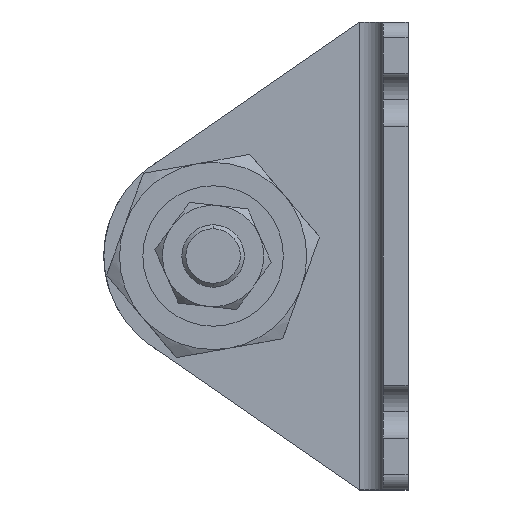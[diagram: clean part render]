
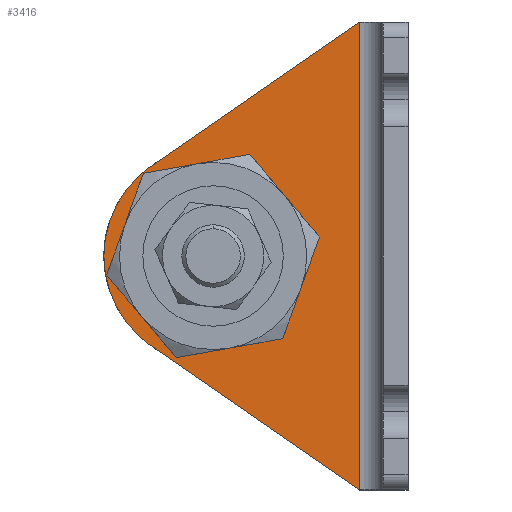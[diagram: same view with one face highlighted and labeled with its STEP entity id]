
A CAD part, left-side view. The second image highlights one B-rep face of the part: STEP entity #3416.
In plain terms, the highlighted planar face has unit normal (-1, 0, 0) as drawn and (1, 0, 0) by its records, which use the part's own axes.
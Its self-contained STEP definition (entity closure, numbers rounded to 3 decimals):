
#106 = VECTOR ( 'NONE', #3715, 1000. ) ;
#190 = VERTEX_POINT ( 'NONE', #2053 ) ;
#239 = CARTESIAN_POINT ( 'NONE',  ( 3.2, 32.226, -17.976 ) ) ;
#251 = CARTESIAN_POINT ( 'NONE',  ( 3.2, 25., -30. ) ) ;
#339 = ORIENTED_EDGE ( 'NONE', *, *, #1503, .T. ) ;
#502 = LINE ( 'NONE', #3774, #4571 ) ;
#569 = ORIENTED_EDGE ( 'NONE', *, *, #2061, .T. ) ;
#598 = CARTESIAN_POINT ( 'NONE',  ( 3.2, 32.956, -41.519 ) ) ;
#659 = AXIS2_PLACEMENT_3D ( 'NONE', #4406, #1185, #945 ) ;
#945 = DIRECTION ( 'NONE',  ( 0., 1., 0. ) ) ;
#1005 = EDGE_CURVE ( 'NONE', #2752, #3568, #3511, .T. ) ;
#1007 = AXIS2_PLACEMENT_3D ( 'NONE', #2838, #2230, #1769 ) ;
#1120 = DIRECTION ( 'NONE',  ( 1., 0., 0. ) ) ;
#1126 = CIRCLE ( 'NONE', #2011, 14. ) ;
#1161 = DIRECTION ( 'NONE',  ( 0., 1., 0. ) ) ;
#1185 = DIRECTION ( 'NONE',  ( 1., 0., 0. ) ) ;
#1198 = EDGE_CURVE ( 'NONE', #4438, #2894, #1126, .T. ) ;
#1206 = EDGE_LOOP ( 'NONE', ( #2361, #2625 ) ) ;
#1264 = FACE_OUTER_BOUND ( 'NONE', #3209, .T. ) ;
#1310 = CARTESIAN_POINT ( 'NONE',  ( 3.2, 6.2, 0. ) ) ;
#1372 = CARTESIAN_POINT ( 'NONE',  ( 3.2, 39., -30. ) ) ;
#1503 = EDGE_CURVE ( 'NONE', #3208, #190, #502, .T. ) ;
#1516 = EDGE_CURVE ( 'NONE', #3568, #2752, #4510, .T. ) ;
#1527 = CARTESIAN_POINT ( 'NONE',  ( 3.2, 15.5, -30. ) ) ;
#1769 = DIRECTION ( 'NONE',  ( 0., 1., 0. ) ) ;
#1844 = AXIS2_PLACEMENT_3D ( 'NONE', #4086, #3215, #1161 ) ;
#1871 = LINE ( 'NONE', #2336, #3003 ) ;
#2011 = AXIS2_PLACEMENT_3D ( 'NONE', #251, #1120, #3727 ) ;
#2052 = DIRECTION ( 'NONE',  ( 0., 0., -1. ) ) ;
#2053 = CARTESIAN_POINT ( 'NONE',  ( 3.2, 6.2, -60. ) ) ;
#2061 = EDGE_CURVE ( 'NONE', #2894, #2291, #4559, .T. ) ;
#2137 = ORIENTED_EDGE ( 'NONE', *, *, #1198, .T. ) ;
#2168 = EDGE_CURVE ( 'NONE', #3208, #2291, #4262, .T. ) ;
#2230 = DIRECTION ( 'NONE',  ( 1., 0., 0. ) ) ;
#2291 = VERTEX_POINT ( 'NONE', #2555 ) ;
#2336 = CARTESIAN_POINT ( 'NONE',  ( 3.2, 4.169, -61.403 ) ) ;
#2361 = ORIENTED_EDGE ( 'NONE', *, *, #1516, .F. ) ;
#2555 = CARTESIAN_POINT ( 'NONE',  ( 3.2, 32.956, -18.481 ) ) ;
#2625 = ORIENTED_EDGE ( 'NONE', *, *, #1005, .F. ) ;
#2752 = VERTEX_POINT ( 'NONE', #1527 ) ;
#2830 = CARTESIAN_POINT ( 'NONE',  ( 3.2, 25., -30. ) ) ;
#2838 = CARTESIAN_POINT ( 'NONE',  ( 3.2, 25., -30. ) ) ;
#2894 = VERTEX_POINT ( 'NONE', #1372 ) ;
#3003 = VECTOR ( 'NONE', #3380, 1000. ) ;
#3208 = VERTEX_POINT ( 'NONE', #1310 ) ;
#3209 = EDGE_LOOP ( 'NONE', ( #3502, #2137, #569, #4393, #339 ) ) ;
#3215 = DIRECTION ( 'NONE',  ( 1., 0., 0. ) ) ;
#3305 = FACE_BOUND ( 'NONE', #1206, .T. ) ;
#3380 = DIRECTION ( 'NONE',  ( 0., 0.823, 0.568 ) ) ;
#3416 = ADVANCED_FACE ( 'NONE', ( #3305, #1264 ), #4044, .T. ) ;
#3502 = ORIENTED_EDGE ( 'NONE', *, *, #3660, .T. ) ;
#3511 = CIRCLE ( 'NONE', #1844, 9.5 ) ;
#3568 = VERTEX_POINT ( 'NONE', #4204 ) ;
#3660 = EDGE_CURVE ( 'NONE', #190, #4438, #1871, .T. ) ;
#3715 = DIRECTION ( 'NONE',  ( 0., 0.823, -0.568 ) ) ;
#3727 = DIRECTION ( 'NONE',  ( 0., 1., 0. ) ) ;
#3774 = CARTESIAN_POINT ( 'NONE',  ( 3.2, 6.2, -60. ) ) ;
#4044 = PLANE ( 'NONE',  #659 ) ;
#4086 = CARTESIAN_POINT ( 'NONE',  ( 3.2, 25., -30. ) ) ;
#4087 = DIRECTION ( 'NONE',  ( 0., 1., 0. ) ) ;
#4167 = DIRECTION ( 'NONE',  ( 1., 0., 0. ) ) ;
#4204 = CARTESIAN_POINT ( 'NONE',  ( 3.2, 34.5, -30. ) ) ;
#4262 = LINE ( 'NONE', #239, #106 ) ;
#4287 = AXIS2_PLACEMENT_3D ( 'NONE', #2830, #4167, #4087 ) ;
#4393 = ORIENTED_EDGE ( 'NONE', *, *, #2168, .F. ) ;
#4406 = CARTESIAN_POINT ( 'NONE',  ( 3.2, 3.2, -60. ) ) ;
#4438 = VERTEX_POINT ( 'NONE', #598 ) ;
#4510 = CIRCLE ( 'NONE', #4287, 9.5 ) ;
#4559 = CIRCLE ( 'NONE', #1007, 14. ) ;
#4571 = VECTOR ( 'NONE', #2052, 1000. ) ;
